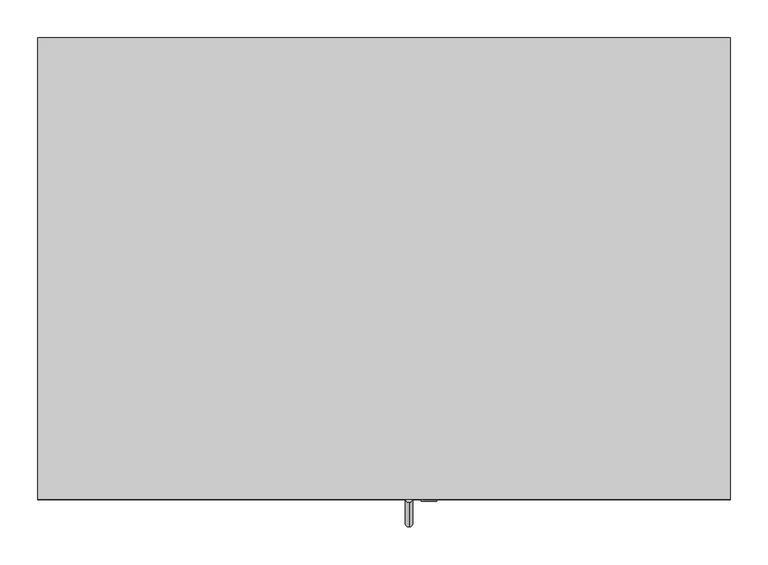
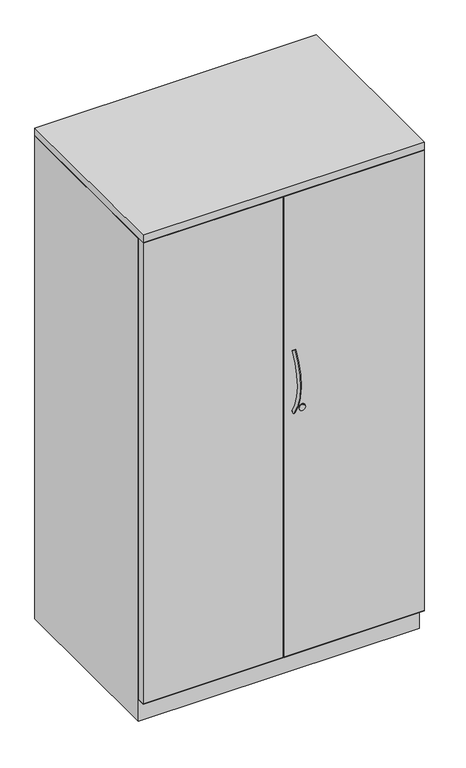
"""IFC4 building model written with IfcOpenShell, lengths in millimetres: furniture geometry, Steelcase - Universal Storage - Cabinet - Storage - 66H-84H - Proud Steel : 66H x 23 1/8D x 36W."""

from ifc_helpers import new_model, si_unit, point, frame, frame_2d, origin, place, context, project, spatial, polyline, circle_curve, ellipse_curve, trimmed, segment, composite_curve, outline, extrude, faceted_brep, source, transform, mapped, element, save
from ifc_brep_helpers import plane_surface, revolved_surface, advanced_brep


def furniture_fa0c8b63(model_context):
    return source(origin(), model_context, "Body", "SolidModel", [
        extrude(outline(polyline([(914.4, 0.0), (914.4, -609.6), (0.0, -609.6), (0.0, 0.0), (914.4, 0.0)])), frame((0.0, 0.0, 1663.7), z_axis=(0.0, 0.0, 1.0), x_axis=(1.0, 0.0, 0.0)), (0.0, 0.0, 1.0), 25.4),
        extrude(outline(polyline([(0.0, -609.6), (0.0, -584.2008418), (454.66, -584.2008418), (454.66, -609.6), (0.0, -609.6)])), frame((0.0, 0.0, 77.724), z_axis=(0.0, 0.0, 1.0), x_axis=(1.0, 0.0, 0.0)), (0.0, 0.0, 1.0), 1584.452),
        extrude(outline(polyline([(914.4, -584.2008418), (914.4, -609.6), (459.74, -609.6), (459.74, -584.2008418), (914.4, -584.2008418)])), frame((0.0, 0.0, 77.724), z_axis=(0.0, 0.0, 1.0), x_axis=(1.0, 0.0, 0.0)), (0.0, 0.0, 1.0), 1584.452),
        extrude(outline(composite_curve([segment(trimmed(circle_curve(frame_2d((917.702, 516.7418131)), 10.16), [point((917.702, 526.9018131))], [point((917.702, 506.5818131))], False, "CARTESIAN"), True, "CONTINUOUS"), segment(trimmed(circle_curve(frame_2d((917.702, 516.7418131)), 10.16), [point((917.702, 506.5818131))], [point((917.702, 526.9018131))], False, "CARTESIAN"), True, "CONTINUOUS")], self_intersect=False)), frame((0.0, -612.013031, 0.0), z_axis=(0.0, 1.0, 0.0), x_axis=(0.0, 0.0, 1.0)), (0.0, 0.0, 1.0), 2.413031),
        advanced_brep(
        [(490.2783765, -605.0224318, 1119.7196018), (490.2783765, -613.6221633, 1125.3900503), (490.2783765, -602.5951581, 911.9931915), (490.2783765, -611.0600418, 906.1233437)],
        [
            (0, 1, circle_curve(frame((490.2783765, -609.3222976, 1122.5548261), z_axis=(0.0, 0.5504787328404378, 0.83484918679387), x_axis=(0.0, -0.83484918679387, 0.5504787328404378)), 5.1504701)),
            (1, 0, circle_curve(frame((490.2783765, -609.3222976, 1122.5548261), z_axis=(0.0, 0.5504787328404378, 0.83484918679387), x_axis=(0.0, -0.83484918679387, 0.5504787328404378)), 5.1504701)),
            (2, 3, circle_curve(frame((490.2783765, -606.8276, 909.0582676), z_axis=(0.0, 0.5698361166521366, -0.8217583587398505), x_axis=(0.0, -0.8217583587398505, -0.5698361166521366)), 5.1504701)),
            (3, 2, circle_curve(frame((490.2783765, -606.8276, 909.0582676), z_axis=(0.0, 0.5698361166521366, -0.8217583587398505), x_axis=(0.0, -0.8217583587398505, -0.5698361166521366)), 5.1504701)),
            (3, 1, circle_curve(frame((490.2783765, -450.226461, 1017.6509992), z_axis=(-1.0, 0.0, 0.0), x_axis=(0.0, -0.83484918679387, 0.5504787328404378)), 195.7188256)),
            (0, 2, circle_curve(frame((490.2783765, -450.226461, 1017.6509992), z_axis=(1.0, 0.0, 0.0), x_axis=(0.0, -0.83484918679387, 0.5504787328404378)), 185.4178854)),
        ],
        [
            plane_surface(frame((490.2783765, -609.3222976, 1122.5548261), z_axis=(0.0, 0.5504787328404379, 0.83484918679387), x_axis=(-1.0, 0.0, 0.0))),
            plane_surface(frame((490.2783765, -606.8276, 909.0582676), z_axis=(0.0, 0.5698361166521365, -0.8217583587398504), x_axis=(-1.0, 0.0, 0.0))),
            revolved_surface(trimmed(ellipse_curve(frame((490.2783765, -609.3222976, 1122.5548261), z_axis=(0.0, 0.5504787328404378, 0.83484918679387), x_axis=(0.0, -0.83484918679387, 0.5504787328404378)), 5.1504701, 5.1504701), [point((490.2783765, -605.0224318, 1119.7196018))], [point((490.2783765, -613.6221633, 1125.3900503))], True, "CARTESIAN"), (490.2783765, -450.226461, 1017.6509992), (1.0, 0.0, 0.0)),
            revolved_surface(trimmed(ellipse_curve(frame((490.2783765, -609.3222976, 1122.5548261), z_axis=(0.0, 0.5504787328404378, 0.83484918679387), x_axis=(0.0, -0.83484918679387, 0.5504787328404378)), 5.1504701, 5.1504701), [point((490.2783765, -613.6221633, 1125.3900503))], [point((490.2783765, -605.0224318, 1119.7196018))], True, "CARTESIAN"), (490.2783765, -450.226461, 1017.6509992), (1.0, 0.0, 0.0)),
        ],
        [
            (0, [[1, 2]]),
            (1, [[3, 4]]),
            (2, [[5, -1, 6, -4]]),
            (3, [[-6, -2, -5, -3]]),
        ],
    ),
        extrude(outline(composite_curve([segment(trimmed(circle_curve(frame_2d((919.3669832, 517.0109835)), 9.7167829), [point((919.3669832, 526.7277664))], [point((919.3669832, 507.2942006))], False, "CARTESIAN"), True, "CONTINUOUS"), segment(trimmed(circle_curve(frame_2d((919.3669832, 517.0109835)), 9.7167829), [point((919.3669832, 507.2942006))], [point((919.3669832, 526.7277664))], False, "CARTESIAN"), True, "CONTINUOUS")], self_intersect=False)), frame((0.0, -610.2695275, 0.0), z_axis=(0.0, 1.0, 0.0), x_axis=(0.0, 0.0, 1.0)), (0.0, 0.0, 1.0), 0.6695275),
        faceted_brep([(914.4, 0.0, 0.0), (914.4, -582.6768432, 0.0), (0.0, -582.6768432, 0.0), (0.0, 0.0, 0.0), (0.0, 0.0, 1662.176), (914.4, 0.0, 1662.176), (0.0, -582.6768432, 76.2), (0.0, -609.6, 76.2), (0.0, -609.6, 77.724), (0.0, -582.6768432, 77.724), (0.0, -582.6768432, 1662.176), (914.4, -582.6768432, 76.2), (914.4, -582.6768432, 1662.176), (914.4, -582.6768432, 77.724), (914.4, -609.4738418, 77.724), (914.4, -609.6, 76.2), (889.0000242, -25.4000008, 1662.176), (889.0000242, -582.6768432, 1662.176), (25.3999758, -582.6768432, 1662.176), (25.3999758, -25.4000008, 1662.176), (889.0000242, -25.4000008, 77.724), (889.0000242, -582.6768432, 77.724), (25.3999758, -582.6768432, 77.724), (25.3999758, -25.4000008, 77.724), (4.6981334, -584.2008418, 77.724), (889.0000242, -584.2008418, 77.724)], [[[0, 1, 2, 3]], [[0, 3, 4, 5]], [[4, 3, 2, 6, 7, 8, 9, 10]], [[2, 1, 11, 6]], [[1, 0, 5, 12, 13, 14, 15, 11]], [[16, 17, 12, 5, 4, 10, 18, 19]], [[17, 16, 20, 21]], [[12, 17, 21, 13]], [[18, 10, 9, 22]], [[19, 18, 22, 23]], [[16, 19, 23, 20]], [[8, 24, 25, 14, 13, 21, 20, 23, 22, 9]], [[15, 7, 6, 11]], [[24, 8, 7]], [[25, 24, 7, 15]], [[14, 25, 15]]]),
    ])


if __name__ == "__main__":
    model = new_model("IFC4")
    model_context = context("Model", 3, world=origin())
    ifc_project = project(units=[si_unit("LENGTHUNIT", "METRE", prefix="MILLI")], contexts=[model_context])
    site = spatial("IfcSite", under=ifc_project)
    building = spatial("IfcBuilding", under=site)
    placement = place(None, origin())
    furniture_shape = furniture_fa0c8b63(model_context)
    element("IfcFurniture", 1, ObjectType="Steelcase - Universal Storage - Cabinet - Storage - 66H-84H - Proud Steel : 66H x 23 1/8D x 36W", at=placement, inside=building, context=model_context, shape_type="MappedRepresentation", body=[
        mapped(furniture_shape, transform((0.0, 0.0, 0.0), x_axis=(1.0, 0.0, 0.0), y_axis=(0.0, 1.0, 0.0), z_axis=(0.0, 0.0, 1.0))),
    ])
    save(model, "model.ifc")
